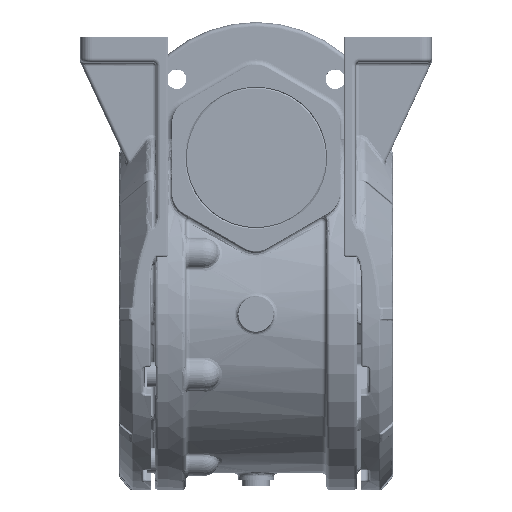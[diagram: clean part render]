
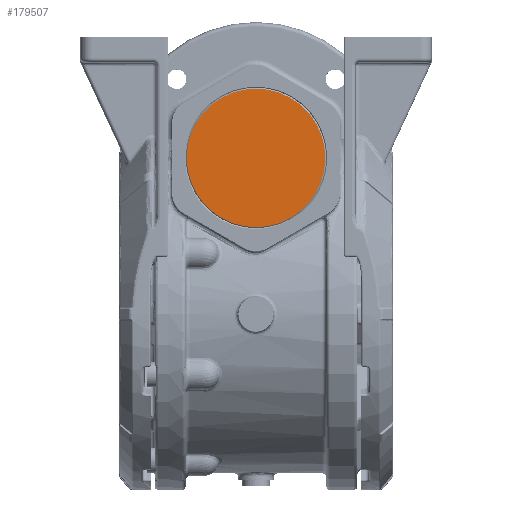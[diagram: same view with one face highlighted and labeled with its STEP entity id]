
A CAD part, top view. The second image highlights one B-rep face of the part: STEP entity #179507.
In plain terms, the highlighted planar face has unit normal (0, 0, 1).
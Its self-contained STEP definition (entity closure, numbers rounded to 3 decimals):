
#179250 = EDGE_CURVE ( 'NONE', #179252, #179254, #240854, .T. ) ;
#179252 = VERTEX_POINT ( 'NONE', #240842 ) ;
#179254 = VERTEX_POINT ( 'NONE', #240839 ) ;
#179500 = EDGE_CURVE ( 'NONE', #179254, #179252, #241757, .T. ) ;
#179507 = ADVANCED_FACE ( 'NONE', ( #241745 ), #241735, .T. ) ;
#179510 = EDGE_LOOP ( 'NONE', ( #179512, #179514 ) ) ;
#179512 = ORIENTED_EDGE ( 'NONE', *, *, #179250, .F. ) ;
#179514 = ORIENTED_EDGE ( 'NONE', *, *, #179500, .F. ) ;
#240839 = CARTESIAN_POINT ( 'NONE',  ( 0., -35.5, 0. ) ) ;
#240842 = CARTESIAN_POINT ( 'NONE',  ( 0., 35.5, 0. ) ) ;
#240845 = DIRECTION ( 'NONE',  ( 0., 1., 0. ) ) ;
#240848 = DIRECTION ( 'NONE',  ( 0., 0., -1. ) ) ;
#240851 = AXIS2_PLACEMENT_3D ( 'NONE', #240875, #240848, #240845 ) ;
#240854 = CIRCLE ( 'NONE', #240851, 35.5 ) ;
#240875 = CARTESIAN_POINT ( 'NONE',  ( 0., 0., 0. ) ) ;
#241725 = DIRECTION ( 'NONE',  ( 0., -1., 0. ) ) ;
#241728 = DIRECTION ( 'NONE',  ( 0., 0., 1. ) ) ;
#241730 = CARTESIAN_POINT ( 'NONE',  ( 0., 0., 0. ) ) ;
#241733 = AXIS2_PLACEMENT_3D ( 'NONE', #241730, #241728, #241725 ) ;
#241735 = PLANE ( 'NONE',  #241733 ) ;
#241745 = FACE_OUTER_BOUND ( 'NONE', #179510, .T. ) ;
#241748 = DIRECTION ( 'NONE',  ( 0., 1., 0. ) ) ;
#241751 = DIRECTION ( 'NONE',  ( 0., 0., -1. ) ) ;
#241754 = AXIS2_PLACEMENT_3D ( 'NONE', #241774, #241751, #241748 ) ;
#241757 = CIRCLE ( 'NONE', #241754, 35.5 ) ;
#241774 = CARTESIAN_POINT ( 'NONE',  ( 0., 0., 0. ) ) ;
